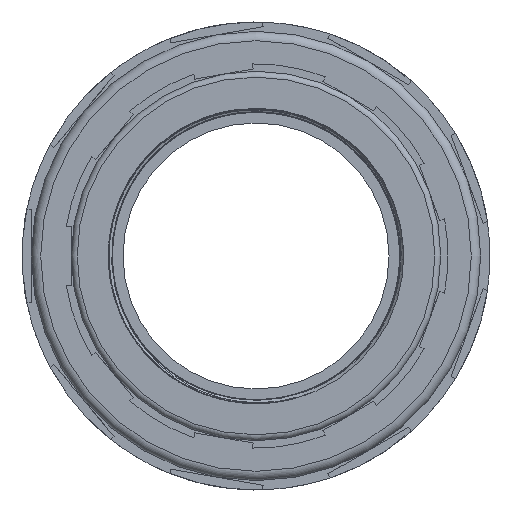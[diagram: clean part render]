
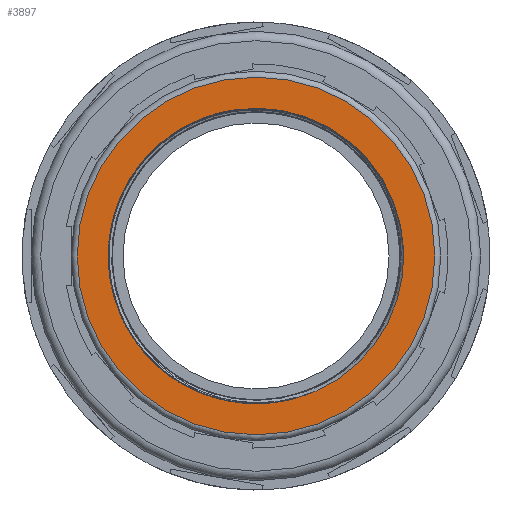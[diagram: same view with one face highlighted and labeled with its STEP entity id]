
A CAD part, left-side view. The second image highlights one B-rep face of the part: STEP entity #3897.
In plain terms, the highlighted planar face has unit normal (-1, 0, 0).
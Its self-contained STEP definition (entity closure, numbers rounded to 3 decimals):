
#26=FACE_BOUND('',#1365,.T.);
#127=PLANE('',#4158);
#1131=FACE_OUTER_BOUND('',#1364,.T.);
#1364=EDGE_LOOP('',(#2973));
#1365=EDGE_LOOP('',(#2974,#2975));
#1556=CIRCLE('',#4068,56.515);
#1580=CIRCLE('',#4104,68.383);
#1706=B_SPLINE_CURVE_WITH_KNOTS('',3,(#11741,#11742,#11743,#11744,#11745,
#11746,#11747),.UNSPECIFIED.,.F.,.F.,(4,3,4),(3.193,3.408,
3.874),.UNSPECIFIED.);
#1736=VERTEX_POINT('',#11729);
#1737=VERTEX_POINT('',#11740);
#1786=VERTEX_POINT('',#18094);
#2116=EDGE_CURVE('',#1737,#1736,#1706,.T.);
#2120=EDGE_CURVE('',#1736,#1737,#1556,.T.);
#2176=EDGE_CURVE('',#1786,#1786,#1580,.T.);
#2973=ORIENTED_EDGE('',*,*,#2176,.T.);
#2974=ORIENTED_EDGE('',*,*,#2116,.T.);
#2975=ORIENTED_EDGE('',*,*,#2120,.T.);
#3897=ADVANCED_FACE('',(#1131,#26),#127,.T.);
#4068=AXIS2_PLACEMENT_3D('',#11780,#4438,#4439);
#4104=AXIS2_PLACEMENT_3D('',#18095,#4529,#4530);
#4158=AXIS2_PLACEMENT_3D('',#18283,#4720,#4721);
#4438=DIRECTION('center_axis',(1.,0.,0.));
#4439=DIRECTION('ref_axis',(0.,1.,0.));
#4529=DIRECTION('center_axis',(-1.,0.,0.));
#4530=DIRECTION('ref_axis',(0.,-1.,0.));
#4720=DIRECTION('center_axis',(-1.,0.,0.));
#4721=DIRECTION('ref_axis',(0.,0.,1.));
#11729=CARTESIAN_POINT('',(-139.5,4.38,-56.345));
#11740=CARTESIAN_POINT('',(-139.5,-4.38,-56.345));
#11741=CARTESIAN_POINT('Ctrl Pts',(-139.5,-4.378,
-56.339));
#11742=CARTESIAN_POINT('Ctrl Pts',(-139.5,-3.459,
-56.411));
#11743=CARTESIAN_POINT('Ctrl Pts',(-139.5,-2.538,
-56.461));
#11744=CARTESIAN_POINT('Ctrl Pts',(-139.5,-1.615,-56.489));
#11745=CARTESIAN_POINT('Ctrl Pts',(-139.5,0.39,
-56.549));
#11746=CARTESIAN_POINT('Ctrl Pts',(-139.5,2.39,-56.502));
#11747=CARTESIAN_POINT('Ctrl Pts',(-139.5,4.381,-56.348));
#11780=CARTESIAN_POINT('Origin',(-139.5,0.,0.));
#18094=CARTESIAN_POINT('',(-139.5,-68.383,0.));
#18095=CARTESIAN_POINT('Origin',(-139.5,0.,0.));
#18283=CARTESIAN_POINT('Origin',(-139.5,0.,0.));
